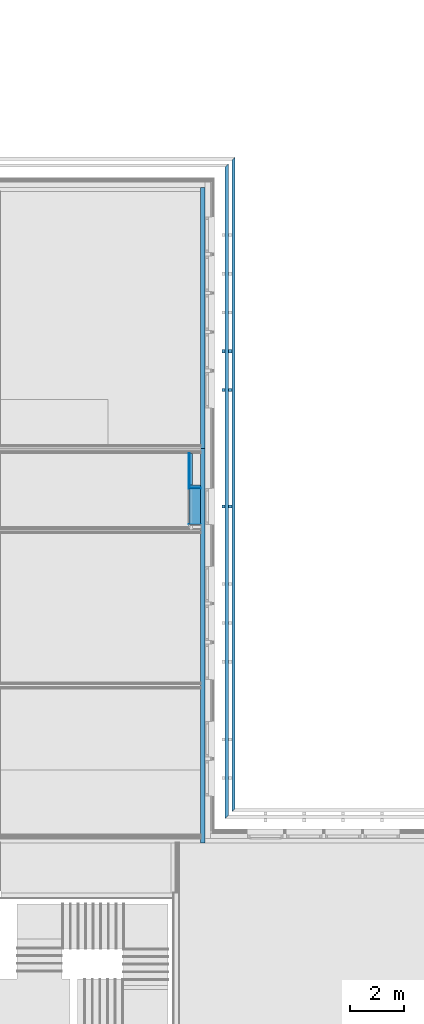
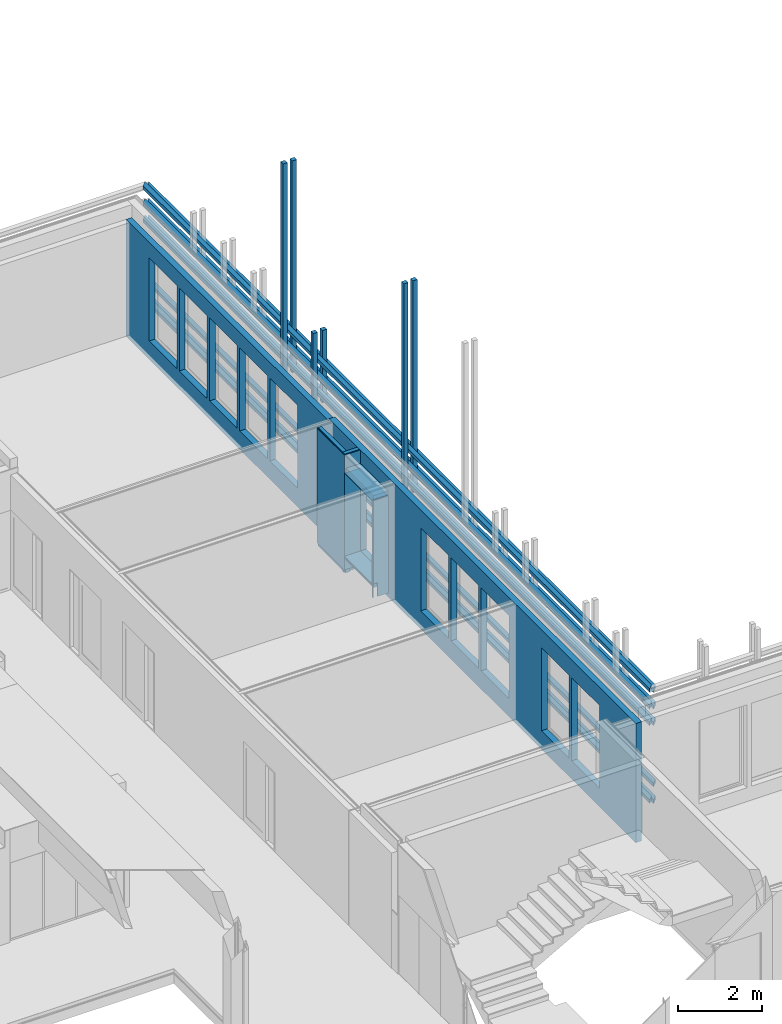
# One storey, part 105 of 139: 19 building element parts, 8 discrete accessories, 11 openings, 6 elements without a shape of their own.
"""IFC2X3 building model written with IfcOpenShell, lengths in millimetres."""

from ifc_helpers import new_model, entity, si_unit, converted_unit, derived_unit, money_unit, direction, frame, origin_with_axes, place, context, subcontext, project, spatial, faceted_brep, material, material_list, type_object, element, aggregate, save


model = new_model("IFC2X3")

# Units and contexts
model_context = context("Model", 3, precision=0.01, world=origin_with_axes(), true_north=direction((0.0, 1.0)))
body_context = subcontext(model_context, "Body", "Model", "MODEL_VIEW")
ifc_project = project(units=[si_unit("LENGTHUNIT", "METRE", prefix="MILLI"), si_unit("AREAUNIT", "SQUARE_METRE"), si_unit("VOLUMEUNIT", "CUBIC_METRE"), converted_unit("PLANEANGLEUNIT", "DEGREE", entity("IfcPlaneAngleMeasure", 0.0174532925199), si_unit("PLANEANGLEUNIT", "RADIAN"), dimensions=[0, 0, 0, 0, 0, 0, 0]), money_unit("EUR"), converted_unit("TIMEUNIT", "Year", entity("IfcTimeMeasure", 31556926.0), si_unit("TIMEUNIT", "SECOND"), dimensions=[0, 0, 1, 0, 0, 0, 0]), si_unit("MASSUNIT", "GRAM", prefix="KILO"), si_unit("THERMODYNAMICTEMPERATUREUNIT", "DEGREE_CELSIUS"), si_unit("LUMINOUSINTENSITYUNIT", "LUMEN"), si_unit("ENERGYUNIT", "JOULE", prefix="MEGA"), derived_unit("THERMALCONDUCTANCEUNIT", [(si_unit("POWERUNIT", "WATT"), 1), (si_unit("LENGTHUNIT", "METRE"), -1), (si_unit("THERMODYNAMICTEMPERATUREUNIT", "KELVIN"), -1)]), derived_unit("SPECIFICHEATCAPACITYUNIT", [(si_unit("ENERGYUNIT", "JOULE"), 1), (si_unit("MASSUNIT", "GRAM", prefix="KILO"), -1), (si_unit("THERMODYNAMICTEMPERATUREUNIT", "KELVIN"), -1)]), derived_unit("MASSDENSITYUNIT", [(si_unit("MASSUNIT", "GRAM", prefix="KILO"), 1), (si_unit("VOLUMEUNIT", "CUBIC_METRE"), -1)])], contexts=[model_context])

# Site, building, storey
site_placement = place(None, origin_with_axes())
site = spatial("IfcSite", under=ifc_project, at=site_placement, Name="Kolde pst 67a", CompositionType="ELEMENT")
building_placement = place(site_placement, origin_with_axes())
building = spatial("IfcBuilding", under=site, at=building_placement, Name="Riigigümnaasium", CompositionType="ELEMENT")
storey_placement = place(building_placement, frame((0.0, 0.0, 4600.0), z_axis=(0.0, 0.0, 1.0), x_axis=(1.0, 0.0, 0.0)))
storey = spatial("IfcBuildingStorey", under=building, at=storey_placement, Name="2. korrus", CompositionType="ELEMENT", Elevation=4600.0)

# Discrete accessories
ifc_material_1 = material(Name="_VÄLISVIIMISTLUS - sõrmjätkatud puitprussid 120x115mm, liitekohad vähemärgatavad, Platowood sõrmjätkatud kuusk või samaväärne; eeltöödeldud tuletõkkevõõbaga, tuletundlikkus B-s1, d0, Woodsafe Exterior WFX™ või samaväärne; kinnitused vastavalt EK osale")
ifc_material_list = material_list([ifc_material_1, ifc_material_1])
discrete_accessory_type_1 = type_object("IfcDiscreteAccessoryType", Name="1+paiksekaitse 4 tk nihkes 2 370 x 355")
for number, where, z_axis, x_axis in (
    (1, (60804.99419, 36804.9718852, 2630.0), (0.0, 0.0, 1.0), (1.0, 0.0, 0.0)),
    (2, (60804.99419, 36804.9718852, -100.0), (0.0, 0.0, 1.0), (1.0, 0.0, 0.0)),
    (3, (60804.99419, 36804.9718852, 3110.0), (0.0, 0.0, 1.0), (1.0, 0.0, 0.0)),
    (4, (60804.99419, 36804.9718852, 2150.0), (0.0, 0.0, 1.0), (1.0, 0.0, 0.0)),
):
    element("IfcDiscreteAccessory", number, at=place(storey_placement, frame(where, z_axis=z_axis, x_axis=x_axis)), inside=storey, type_object=discrete_accessory_type_1, material=ifc_material_list, Name="Päikesevarjestus", context=body_context, shape_type="Brep", body=[
        faceted_brep([(375.0, 24375.0282164, 347.001360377), (375.0, 375.0, 347.001360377), (495.0, 495.0, 357.5), (495.0, 24495.0282184, 357.5), (375.0, 24375.0282164, 242.5), (375.0, 375.0, 242.5), (495.0, 495.0, 242.5), (495.0, 24495.0282184, 242.5)], [[[0, 1, 2, 3]], [[4, 5, 1, 0]], [[5, 6, 2, 1]], [[3, 2, 6, 7]], [[4, 0, 3, 7]], [[7, 6, 5, 4]]]),
        faceted_brep([(625.0, 24625.0282205, 107.001360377), (625.0, 625.0, 107.001360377), (745.0, 745.0, 117.5), (745.0, 24745.0282225, 117.5), (625.0, 24625.0282205, 2.5), (625.0, 625.0, 2.5), (745.0, 745.0, 2.5), (745.0, 24745.0282225, 2.5)], [[[0, 1, 2, 3]], [[4, 5, 1, 0]], [[5, 6, 2, 1]], [[3, 2, 6, 7]], [[4, 0, 3, 7]], [[7, 6, 5, 4]]]),
    ])
discrete_accessory_type_2 = type_object("IfcDiscreteAccessoryType", Name="1+paiksekaitse 3 370 x 115")
discrete_accessory_1_placement = place(storey_placement, frame((61771.9937454, 53025.0013897, 2150.0), z_axis=(0.0, 0.0, 1.0), x_axis=(-1.0, 0.0, 0.0)))
element("IfcDiscreteAccessory", 5, at=discrete_accessory_1_placement, inside=storey, type_object=discrete_accessory_type_2, material=ifc_material_list, Name="Päikesevarjestus", context=body_context, shape_type="Brep", body=[
    faceted_brep([(467.0, 117.5, 0.0), (347.0, 117.5, 0.0), (347.0, 117.5, 2090.0), (467.0, 117.5, 2090.0), (467.0, 2.5, 0.0), (347.0, 2.5, 0.0), (347.0, 2.5, 2090.0), (467.0, 2.5, 2090.0)], [[[0, 1, 2, 3]], [[0, 4, 5, 1]], [[1, 5, 6, 2]], [[3, 2, 6, 7]], [[4, 0, 3, 7]], [[5, 4, 7, 6]]]),
    faceted_brep([(717.0, 117.5, 0.0), (597.0, 117.5, 0.0), (597.0, 117.5, 2090.0), (717.0, 117.5, 2090.0), (717.0, 2.5, 0.0), (597.0, 2.5, 0.0), (597.0, 2.5, 2090.0), (717.0, 2.5, 2090.0)], [[[0, 1, 2, 3]], [[0, 4, 5, 1]], [[1, 5, 6, 2]], [[3, 2, 6, 7]], [[4, 0, 3, 7]], [[5, 4, 7, 6]]]),
])
for number, where, z_axis, x_axis in (
    (6, (61771.9937454, 54455.0013897, 2150.0), (0.0, 0.0, 1.0), (-1.0, 0.0, 0.0)),
    (7, (61771.9937454, 48735.0013897, 2150.0), (0.0, 0.0, 1.0), (-1.0, 0.0, 0.0)),
):
    element("IfcDiscreteAccessory", number, at=place(storey_placement, frame(where, z_axis=z_axis, x_axis=x_axis)), inside=storey, type_object=discrete_accessory_type_2, material=ifc_material_list, Name="Päikesevarjestus", context=body_context, shape_type="Brep", body=[
        faceted_brep([(467.0, 117.5, 0.0), (347.0, 117.5, 0.0), (347.0, 117.5, 6130.0), (467.0, 117.5, 6130.0), (467.0, 2.5, 0.0), (347.0, 2.5, 0.0), (347.0, 2.5, 6130.0), (467.0, 2.5, 6130.0)], [[[0, 1, 2, 3]], [[0, 4, 5, 1]], [[1, 5, 6, 2]], [[3, 2, 6, 7]], [[4, 0, 3, 7]], [[5, 4, 7, 6]]]),
        faceted_brep([(717.0, 117.5, 0.0), (597.0, 117.5, 0.0), (597.0, 117.5, 6130.0), (717.0, 117.5, 6130.0), (717.0, 2.5, 0.0), (597.0, 2.5, 0.0), (597.0, 2.5, 6130.0), (717.0, 2.5, 6130.0)], [[[0, 1, 2, 3]], [[0, 4, 5, 1]], [[1, 5, 6, 2]], [[3, 2, 6, 7]], [[4, 0, 3, 7]], [[5, 4, 7, 6]]]),
    ])
discrete_accessory_type_3 = type_object("IfcDiscreteAccessoryType", Name="1+paiksekaitse 4 tk nihkes 1 120 x 115")
discrete_accessory_2_placement = place(storey_placement, frame((60804.99419, 36804.9718852, 380.0), z_axis=(0.0, 0.0, 1.0), x_axis=(1.0, 0.0, 0.0)))
element("IfcDiscreteAccessory", 8, at=discrete_accessory_2_placement, inside=storey, type_object=discrete_accessory_type_3, material=ifc_material_1, Name="Päikesevarjestus", context=body_context, shape_type="Brep", body=[
    faceted_brep([(745.0, 24745.0282225, 117.5), (625.0, 24625.0282205, 107.001360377), (625.0, 625.0, 107.001360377), (745.0, 745.0, 117.5), (745.0, 24745.0282225, 2.5), (625.0, 24625.0282205, 2.5), (625.0, 625.0, 2.5), (745.0, 745.0, 2.5)], [[[0, 1, 2, 3]], [[4, 5, 1, 0]], [[1, 5, 6, 2]], [[2, 6, 7, 3]], [[4, 0, 3, 7]], [[5, 4, 7, 6]]]),
])

# Wall, openings, building element part
wall_type_1 = type_object("IfcWallType", Name="VS-CLT-16/1_soojust 200+laudis 472", PredefinedType="NOTDEFINED")
wall_1_placement = place(storey_placement, frame((60439.9941222, 36439.9996998, -130.0), z_axis=(0.0, 0.0, 1.0), x_axis=(0.0, 1.0, 0.0)))
wall_1 = element("IfcWall", 9, at=wall_1_placement, inside=storey, type_object=wall_type_1, Name="Välissein")
opening_1_placement = place(wall_1_placement, frame((2225.0001827, 0.0, 530.0), z_axis=(0.0, 0.0, 1.0), x_axis=(1.0, 0.0, 0.0)))
element("IfcOpeningElement", 10, at=opening_1_placement, cuts=wall_1, Name="Välisaken", context=body_context, shape_type="Brep", body=[
    faceted_brep([(-655.0, -122.0, 0.0), (-655.0, -122.0, 2400.0), (-655.0, 632.0, 2400.0), (-655.0, 632.0, 0.0), (655.0, -122.0, 0.0), (655.0, -122.0, 2400.0), (655.0, 632.0, 2400.0), (655.0, 632.0, 0.0)], [[[0, 1, 2, 3]], [[0, 4, 5, 1]], [[1, 5, 6, 2]], [[3, 2, 6, 7]], [[4, 0, 3, 7]], [[5, 4, 7, 6]]]),
    faceted_brep([(-655.0, -122.0, 2400.0), (-655.0, -122.0, 0.0), (-655.0, -784.0, 0.0), (-655.0, -784.0, 2400.0), (655.0, -122.0, 2400.0), (655.0, -122.0, 0.0), (655.0, -784.0, 0.0), (655.0, -784.0, 2400.0)], [[[0, 1, 2, 3]], [[0, 4, 5, 1]], [[1, 5, 6, 2]], [[3, 2, 6, 7]], [[4, 0, 3, 7]], [[5, 4, 7, 6]]]),
])
opening_2_placement = place(wall_1_placement, frame((6515.0001827, 0.0, 530.0), z_axis=(0.0, 0.0, 1.0), x_axis=(1.0, 0.0, 0.0)))
element("IfcOpeningElement", 11, at=opening_2_placement, cuts=wall_1, Name="Välisaken", context=body_context, shape_type="Brep", body=[
    faceted_brep([(-655.0, -122.0, 0.0), (-655.0, -122.0, 2400.0), (-655.0, 632.0, 2400.0), (-655.0, 632.0, 0.0), (655.0, -122.0, 0.0), (655.0, -122.0, 2400.0), (655.0, 632.0, 2400.0), (655.0, 632.0, 0.0)], [[[0, 1, 2, 3]], [[0, 4, 5, 1]], [[1, 5, 6, 2]], [[3, 2, 6, 7]], [[4, 0, 3, 7]], [[5, 4, 7, 6]]]),
    faceted_brep([(-655.0, -122.0, 2400.0), (-655.0, -122.0, 0.0), (-655.0, -784.0, 0.0), (-655.0, -784.0, 2400.0), (655.0, -122.0, 2400.0), (655.0, -122.0, 0.0), (655.0, -784.0, 0.0), (655.0, -784.0, 2400.0)], [[[0, 1, 2, 3]], [[0, 4, 5, 1]], [[1, 5, 6, 2]], [[3, 2, 6, 7]], [[4, 0, 3, 7]], [[5, 4, 7, 6]]]),
])
opening_3_placement = place(wall_1_placement, frame((12235.0001827, 0.0, 530.0), z_axis=(0.0, 0.0, 1.0), x_axis=(1.0, 0.0, 0.0)))
element("IfcOpeningElement", 12, at=opening_3_placement, cuts=wall_1, Name="Välisaken", context=body_context, shape_type="Brep", body=[
    faceted_brep([(-655.0, -122.0, 0.0), (-655.0, -122.0, 2400.0), (-655.0, 632.0, 2400.0), (-655.0, 632.0, 0.0), (655.0, -122.0, 0.0), (655.0, -122.0, 2400.0), (655.0, 632.0, 2400.0), (655.0, 632.0, 0.0)], [[[0, 1, 2, 3]], [[0, 4, 5, 1]], [[1, 5, 6, 2]], [[3, 2, 6, 7]], [[4, 0, 3, 7]], [[5, 4, 7, 6]]]),
    faceted_brep([(-655.0, -122.0, 2400.0), (-655.0, -122.0, 0.0), (-655.0, -784.0, 0.0), (-655.0, -784.0, 2400.0), (655.0, -122.0, 2400.0), (655.0, -122.0, 0.0), (655.0, -784.0, 0.0), (655.0, -784.0, 2400.0)], [[[0, 1, 2, 3]], [[0, 4, 5, 1]], [[1, 5, 6, 2]], [[3, 2, 6, 7]], [[4, 0, 3, 7]], [[5, 4, 7, 6]]]),
])
opening_4_placement = place(wall_1_placement, frame((16525.0005595, 0.0, 530.0), z_axis=(0.0, 0.0, 1.0), x_axis=(1.0, 0.0, 0.0)))
element("IfcOpeningElement", 13, at=opening_4_placement, cuts=wall_1, Name="Välisaken", context=body_context, shape_type="Brep", body=[
    faceted_brep([(-655.0, -122.0, 0.0), (-655.0, -122.0, 2400.0), (-655.0, 632.0, 2400.0), (-655.0, 632.0, 0.0), (655.0, -122.0, 0.0), (655.0, -122.0, 2400.0), (655.0, 632.0, 2400.0), (655.0, 632.0, 0.0)], [[[0, 1, 2, 3]], [[0, 4, 5, 1]], [[1, 5, 6, 2]], [[3, 2, 6, 7]], [[4, 0, 3, 7]], [[5, 4, 7, 6]]]),
    faceted_brep([(-655.0, -122.0, 2400.0), (-655.0, -122.0, 0.0), (-655.0, -784.0, 0.0), (-655.0, -784.0, 2400.0), (655.0, -122.0, 2400.0), (655.0, -122.0, 0.0), (655.0, -784.0, 0.0), (655.0, -784.0, 2400.0)], [[[0, 1, 2, 3]], [[0, 4, 5, 1]], [[1, 5, 6, 2]], [[3, 2, 6, 7]], [[4, 0, 3, 7]], [[5, 4, 7, 6]]]),
])
opening_5_placement = place(wall_1_placement, frame((22245.0003712, 0.0, 530.0), z_axis=(0.0, 0.0, 1.0), x_axis=(1.0, 0.0, 0.0)))
element("IfcOpeningElement", 14, at=opening_5_placement, cuts=wall_1, Name="Välisaken", context=body_context, shape_type="Brep", body=[
    faceted_brep([(655.0, 632.0, 0.0), (655.0, 632.0, 2400.0), (655.0, -122.0, 2400.0), (655.0, -122.0, 0.0), (-655.0, 632.0, 0.0), (-655.0, 632.0, 2400.0), (-655.0, -122.0, 2400.0), (-655.0, -122.0, 0.0)], [[[0, 1, 2, 3]], [[0, 4, 5, 1]], [[1, 5, 6, 2]], [[3, 2, 6, 7]], [[4, 0, 3, 7]], [[5, 4, 7, 6]]]),
    faceted_brep([(655.0, -784.0, 2400.0), (655.0, -784.0, 0.0), (655.0, -122.0, 0.0), (655.0, -122.0, 2400.0), (-655.0, -784.0, 2400.0), (-655.0, -784.0, 0.0), (-655.0, -122.0, 0.0), (-655.0, -122.0, 2400.0)], [[[0, 1, 2, 3]], [[0, 4, 5, 1]], [[1, 5, 6, 2]], [[3, 2, 6, 7]], [[4, 0, 3, 7]], [[5, 4, 7, 6]]]),
])
opening_6_placement = place(wall_1_placement, frame((3655.0001827, 0.0, 530.0), z_axis=(0.0, 0.0, 1.0), x_axis=(1.0, 0.0, 0.0)))
element("IfcOpeningElement", 15, at=opening_6_placement, cuts=wall_1, Name="Välisaken", context=body_context, shape_type="Brep", body=[
    faceted_brep([(655.0, 632.0, 0.0), (655.0, 632.0, 2400.0), (655.0, -122.0, 2400.0), (655.0, -122.0, 0.0), (-655.0, 632.0, 0.0), (-655.0, 632.0, 2400.0), (-655.0, -122.0, 2400.0), (-655.0, -122.0, 0.0)], [[[0, 1, 2, 3]], [[0, 4, 5, 1]], [[1, 5, 6, 2]], [[3, 2, 6, 7]], [[4, 0, 3, 7]], [[5, 4, 7, 6]]]),
    faceted_brep([(655.0, -784.0, 2400.0), (655.0, -784.0, 0.0), (655.0, -122.0, 0.0), (655.0, -122.0, 2400.0), (-655.0, -784.0, 2400.0), (-655.0, -784.0, 0.0), (-655.0, -122.0, 0.0), (-655.0, -122.0, 2400.0)], [[[0, 1, 2, 3]], [[0, 4, 5, 1]], [[1, 5, 6, 2]], [[3, 2, 6, 7]], [[4, 0, 3, 7]], [[5, 4, 7, 6]]]),
])
opening_7_placement = place(wall_1_placement, frame((7945.0003711, 0.0, 530.0), z_axis=(0.0, 0.0, 1.0), x_axis=(1.0, 0.0, 0.0)))
element("IfcOpeningElement", 16, at=opening_7_placement, cuts=wall_1, Name="Välisaken", context=body_context, shape_type="Brep", body=[
    faceted_brep([(655.0, 632.0, 0.0), (655.0, 632.0, 2400.0), (655.0, -122.0, 2400.0), (655.0, -122.0, 0.0), (-655.0, 632.0, 0.0), (-655.0, 632.0, 2400.0), (-655.0, -122.0, 2400.0), (-655.0, -122.0, 0.0)], [[[0, 1, 2, 3]], [[0, 4, 5, 1]], [[1, 5, 6, 2]], [[3, 2, 6, 7]], [[4, 0, 3, 7]], [[5, 4, 7, 6]]]),
    faceted_brep([(655.0, -784.0, 2400.0), (655.0, -784.0, 0.0), (655.0, -122.0, 0.0), (655.0, -122.0, 2400.0), (-655.0, -784.0, 2400.0), (-655.0, -784.0, 0.0), (-655.0, -122.0, 0.0), (-655.0, -122.0, 2400.0)], [[[0, 1, 2, 3]], [[0, 4, 5, 1]], [[1, 5, 6, 2]], [[3, 2, 6, 7]], [[4, 0, 3, 7]], [[5, 4, 7, 6]]]),
])
opening_8_placement = place(wall_1_placement, frame((9375.0001827, 0.0, 530.0), z_axis=(0.0, 0.0, 1.0), x_axis=(1.0, 0.0, 0.0)))
element("IfcOpeningElement", 17, at=opening_8_placement, cuts=wall_1, Name="Välisaken", context=body_context, shape_type="Brep", body=[
    faceted_brep([(655.0, 632.0, 0.0), (655.0, 632.0, 2400.0), (655.0, -122.0, 2400.0), (655.0, -122.0, 0.0), (-655.0, 632.0, 0.0), (-655.0, 632.0, 2400.0), (-655.0, -122.0, 2400.0), (-655.0, -122.0, 0.0)], [[[0, 1, 2, 3]], [[0, 4, 5, 1]], [[1, 5, 6, 2]], [[3, 2, 6, 7]], [[4, 0, 3, 7]], [[5, 4, 7, 6]]]),
    faceted_brep([(655.0, -784.0, 2400.0), (655.0, -784.0, 0.0), (655.0, -122.0, 0.0), (655.0, -122.0, 2400.0), (-655.0, -784.0, 2400.0), (-655.0, -784.0, 0.0), (-655.0, -122.0, 0.0), (-655.0, -122.0, 2400.0)], [[[0, 1, 2, 3]], [[0, 4, 5, 1]], [[1, 5, 6, 2]], [[3, 2, 6, 7]], [[4, 0, 3, 7]], [[5, 4, 7, 6]]]),
])
opening_9_placement = place(wall_1_placement, frame((17955.0001827, 0.0, 530.0), z_axis=(0.0, 0.0, 1.0), x_axis=(1.0, 0.0, 0.0)))
element("IfcOpeningElement", 18, at=opening_9_placement, cuts=wall_1, Name="Välisaken", context=body_context, shape_type="Brep", body=[
    faceted_brep([(655.0, 632.0, 0.0), (655.0, 632.0, 2400.0), (655.0, -122.0, 2400.0), (655.0, -122.0, 0.0), (-655.0, 632.0, 0.0), (-655.0, 632.0, 2400.0), (-655.0, -122.0, 2400.0), (-655.0, -122.0, 0.0)], [[[0, 1, 2, 3]], [[0, 4, 5, 1]], [[1, 5, 6, 2]], [[3, 2, 6, 7]], [[4, 0, 3, 7]], [[5, 4, 7, 6]]]),
    faceted_brep([(655.0, -784.0, 2400.0), (655.0, -784.0, 0.0), (655.0, -122.0, 0.0), (655.0, -122.0, 2400.0), (-655.0, -784.0, 2400.0), (-655.0, -784.0, 0.0), (-655.0, -122.0, 0.0), (-655.0, -122.0, 2400.0)], [[[0, 1, 2, 3]], [[0, 4, 5, 1]], [[1, 5, 6, 2]], [[3, 2, 6, 7]], [[4, 0, 3, 7]], [[5, 4, 7, 6]]]),
])
opening_10_placement = place(wall_1_placement, frame((20815.0001828, 0.0, 530.0), z_axis=(0.0, 0.0, 1.0), x_axis=(1.0, 0.0, 0.0)))
element("IfcOpeningElement", 19, at=opening_10_placement, cuts=wall_1, Name="Välisaken", context=body_context, shape_type="Brep", body=[
    faceted_brep([(655.0, 632.0, 0.0), (655.0, 632.0, 2400.0), (655.0, -122.0, 2400.0), (655.0, -122.0, 0.0), (-655.0, 632.0, 0.0), (-655.0, 632.0, 2400.0), (-655.0, -122.0, 2400.0), (-655.0, -122.0, 0.0)], [[[0, 1, 2, 3]], [[0, 4, 5, 1]], [[1, 5, 6, 2]], [[3, 2, 6, 7]], [[4, 0, 3, 7]], [[5, 4, 7, 6]]]),
    faceted_brep([(655.0, -784.0, 2400.0), (655.0, -784.0, 0.0), (655.0, -122.0, 0.0), (655.0, -122.0, 2400.0), (-655.0, -784.0, 2400.0), (-655.0, -784.0, 0.0), (-655.0, -122.0, 0.0), (-655.0, -122.0, 2400.0)], [[[0, 1, 2, 3]], [[0, 4, 5, 1]], [[1, 5, 6, 2]], [[3, 2, 6, 7]], [[4, 0, 3, 7]], [[5, 4, 7, 6]]]),
])
opening_11_placement = place(wall_1_placement, frame((19385.0001829, 0.0, 530.0), z_axis=(0.0, 0.0, 1.0), x_axis=(1.0, 0.0, 0.0)))
element("IfcOpeningElement", 20, at=opening_11_placement, cuts=wall_1, Name="Välisaken", context=body_context, shape_type="Brep", body=[
    faceted_brep([(655.0, 632.0, 0.0), (655.0, 632.0, 2400.0), (655.0, -122.0, 2400.0), (655.0, -122.0, 0.0), (-655.0, 632.0, 0.0), (-655.0, 632.0, 2400.0), (-655.0, -122.0, 2400.0), (-655.0, -122.0, 0.0)], [[[0, 1, 2, 3]], [[0, 4, 5, 1]], [[1, 5, 6, 2]], [[3, 2, 6, 7]], [[4, 0, 3, 7]], [[5, 4, 7, 6]]]),
    faceted_brep([(655.0, -784.0, 2400.0), (655.0, -784.0, 0.0), (655.0, -122.0, 0.0), (655.0, -122.0, 2400.0), (-655.0, -784.0, 2400.0), (-655.0, -784.0, 0.0), (-655.0, -122.0, 0.0), (-655.0, -122.0, 2400.0)], [[[0, 1, 2, 3]], [[0, 4, 5, 1]], [[1, 5, 6, 2]], [[3, 2, 6, 7]], [[4, 0, 3, 7]], [[5, 4, 7, 6]]]),
])
ifc_material_2 = material(Name="_KANDETARIND - CLT ristkihtliimpuit vastavalt EK osale, CLT paigaldusvuugid teibitakse ROTHOBLAAS teibiga")
building_element_part_1_placement = place(wall_1_placement, origin_with_axes())
building_element_part_1 = element("IfcBuildingElementPart", 21, at=building_element_part_1_placement, material=ifc_material_2, Name="_KANDETARIND - CLT ristkihtliimpuit vastavalt EK osale, CLT paigaldusvuugid teibitakse ROTHOBLAAS teibiga", context=body_context, shape_type="Brep", body=[
    faceted_brep([(24000.0004846, 160.0, 3380.0), (24000.0004846, 160.0, 0.0), (-160.0, 160.0, 0.0), (-160.0, 160.0, 3450.0), (14375.0006789, 160.0, 3450.0), (14375.0006789, 160.0, 3380.0), (2880.0001827, 160.0, 2930.0), (1570.0001827, 160.0, 2930.0), (1570.0001827, 160.0, 530.0), (2880.0001827, 160.0, 530.0), (7170.0001827, 160.0, 530.0), (7170.0001827, 160.0, 2930.0), (5860.0001827, 160.0, 2930.0), (5860.0001827, 160.0, 530.0), (11580.0001827, 160.0, 530.0), (12890.0001827, 160.0, 530.0), (12890.0001827, 160.0, 2930.0), (11580.0001827, 160.0, 2930.0), (15870.0005595, 160.0, 2930.0), (15870.0005595, 160.0, 530.0), (17180.0005595, 160.0, 530.0), (17180.0005595, 160.0, 2930.0), (22900.0003712, 160.0, 2930.0), (21590.0003712, 160.0, 2930.0), (21590.0003712, 160.0, 530.0), (22900.0003712, 160.0, 530.0), (4310.0001827, 160.0, 530.0), (4310.0001827, 160.0, 2930.0), (3000.0001827, 160.0, 2930.0), (3000.0001827, 160.0, 530.0), (7290.0003711, 160.0, 530.0), (8600.0003711, 160.0, 530.0), (8600.0003711, 160.0, 2930.0), (7290.0003711, 160.0, 2930.0), (8720.0001827, 160.0, 2930.0), (8720.0001827, 160.0, 530.0), (10030.0001827, 160.0, 530.0), (10030.0001827, 160.0, 2930.0), (18610.0001827, 160.0, 2930.0), (17300.0001827, 160.0, 2930.0), (17300.0001827, 160.0, 530.0), (18610.0001827, 160.0, 530.0), (21470.0001828, 160.0, 530.0), (21470.0001828, 160.0, 2930.0), (20160.0001828, 160.0, 2930.0), (20160.0001828, 160.0, 530.0), (18730.0001829, 160.0, 530.0), (20040.0001829, 160.0, 530.0), (20040.0001829, 160.0, 2930.0), (18730.0001829, 160.0, 2930.0), (24000.0004846, 0.0, 3380.0), (24000.0004846, 0.0, 0.0), (-160.0, 0.0, 0.0), (-160.0, 0.0, 3450.0), (0.0, 0.0, 3450.0), (14375.0006789, 0.0, 3450.0), (14375.0006789, 0.0, 3380.0), (2880.0001827, 0.0, 2930.0), (1570.0001827, 0.0, 2930.0), (1570.0001827, 0.0, 530.0), (2880.0001827, 0.0, 530.0), (7170.0001827, 0.0, 2930.0), (7170.0001827, 0.0, 530.0), (5860.0001827, 0.0, 2930.0), (5860.0001827, 0.0, 530.0), (11580.0001827, 0.0, 530.0), (12890.0001827, 0.0, 530.0), (12890.0001827, 0.0, 2930.0), (11580.0001827, 0.0, 2930.0), (15870.0005595, 0.0, 2930.0), (15870.0005595, 0.0, 530.0), (17180.0005595, 0.0, 530.0), (17180.0005595, 0.0, 2930.0), (22900.0003712, 0.0, 2930.0), (21590.0003712, 0.0, 2930.0), (21590.0003712, 0.0, 530.0), (22900.0003712, 0.0, 530.0), (4310.0001827, 0.0, 2930.0), (4310.0001827, 0.0, 530.0), (3000.0001827, 0.0, 2930.0), (3000.0001827, 0.0, 530.0), (7290.0003711, 0.0, 530.0), (8600.0003711, 0.0, 530.0), (8600.0003711, 0.0, 2930.0), (7290.0003711, 0.0, 2930.0), (8720.0001827, 0.0, 2930.0), (8720.0001827, 0.0, 530.0), (10030.0001827, 0.0, 530.0), (10030.0001827, 0.0, 2930.0), (18610.0001827, 0.0, 2930.0), (17300.0001827, 0.0, 2930.0), (17300.0001827, 0.0, 530.0), (18610.0001827, 0.0, 530.0), (21470.0001828, 0.0, 2930.0), (21470.0001828, 0.0, 530.0), (20160.0001828, 0.0, 2930.0), (20160.0001828, 0.0, 530.0), (18730.0001829, 0.0, 530.0), (20040.0001829, 0.0, 530.0), (20040.0001829, 0.0, 2930.0), (18730.0001829, 0.0, 2930.0)], [[[0, 1, 2, 3, 4, 5], [6, 7, 8, 9], [10, 11, 12, 13], [14, 15, 16, 17], [18, 19, 20, 21], [22, 23, 24, 25], [26, 27, 28, 29], [30, 31, 32, 33], [34, 35, 36, 37], [38, 39, 40, 41], [42, 43, 44, 45], [46, 47, 48, 49]], [[1, 0, 50, 51]], [[2, 1, 51, 52]], [[52, 53, 3, 2]], [[4, 3, 53, 54, 55]], [[5, 4, 55, 56]], [[50, 0, 5, 56]], [[7, 6, 57, 58]], [[8, 7, 58, 59]], [[9, 8, 59, 60]], [[6, 9, 60, 57]], [[61, 11, 10, 62]], [[63, 12, 11, 61]], [[64, 13, 12, 63]], [[62, 10, 13, 64]], [[65, 66, 15, 14]], [[66, 67, 16, 15]], [[67, 68, 17, 16]], [[68, 65, 14, 17]], [[18, 69, 70, 19]], [[19, 70, 71, 20]], [[20, 71, 72, 21]], [[21, 72, 69, 18]], [[23, 22, 73, 74]], [[24, 23, 74, 75]], [[25, 24, 75, 76]], [[22, 25, 76, 73]], [[77, 27, 26, 78]], [[79, 28, 27, 77]], [[80, 29, 28, 79]], [[78, 26, 29, 80]], [[81, 82, 31, 30]], [[82, 83, 32, 31]], [[83, 84, 33, 32]], [[84, 81, 30, 33]], [[34, 85, 86, 35]], [[35, 86, 87, 36]], [[36, 87, 88, 37]], [[37, 88, 85, 34]], [[39, 38, 89, 90]], [[40, 39, 90, 91]], [[41, 40, 91, 92]], [[38, 41, 92, 89]], [[93, 43, 42, 94]], [[95, 44, 43, 93]], [[96, 45, 44, 95]], [[94, 42, 45, 96]], [[97, 98, 47, 46]], [[98, 99, 48, 47]], [[99, 100, 49, 48]], [[100, 97, 46, 49]], [[52, 51, 50, 56, 55, 54, 53], [57, 60, 59, 58], [63, 61, 62, 64], [65, 68, 67, 66], [71, 70, 69, 72], [73, 76, 75, 74], [79, 77, 78, 80], [81, 84, 83, 82], [87, 86, 85, 88], [89, 92, 91, 90], [95, 93, 94, 96], [97, 100, 99, 98]]]),
])
aggregate(wall_1, [building_element_part_1])

# Wall, building element parts
wall_type_2 = type_object("IfcWallType", Name="SS-MK-10/6_šahti sein+krohv 40 dB 135", PredefinedType="NOTDEFINED")
wall_2_placement = place(storey_placement, frame((60439.9941222, 49329.9998825, -150.0), z_axis=(0.0, 0.0, 1.0), x_axis=(-1.0, 0.0, 0.0)))
wall_2 = element("IfcWall", 22, at=wall_2_placement, inside=storey, type_object=wall_type_2, Name="Varisein")
ifc_material_3 = material(Name="_VIIMISTLUSKIHT - viimistlus vastavalt SA osale")
building_element_part_2_placement = place(wall_2_placement, origin_with_axes())
building_element_part_2 = element("IfcBuildingElementPart", 23, at=building_element_part_2_placement, material=ifc_material_3, Name="_VIIMISTLUSKIHT - viimistlus vastavalt SA osale", context=body_context, shape_type="Brep", body=[
    faceted_brep([(590.0, -10.0, 3470.0), (160.0, -10.0, 3470.0), (160.0, -10.0, 150.0), (590.0, -10.0, 150.0), (160.0, 0.0, 3470.0), (590.0, 0.0, 3470.0), (160.0, 0.0, 150.0), (590.0, 0.0, 150.0)], [[[0, 1, 2, 3]], [[4, 1, 0, 5]], [[1, 4, 6, 2]], [[3, 2, 6, 7]], [[5, 0, 3, 7]], [[4, 5, 7, 6]]]),
])
ifc_material_4 = material(Name="_PLAATMATERJAL - kipsplaat veekindel")
building_element_part_3_placement = place(wall_2_placement, origin_with_axes())
building_element_part_3 = element("IfcBuildingElementPart", 24, at=building_element_part_3_placement, material=ifc_material_4, Name="_PLAATMATERJAL - kipsplaat veekindel", context=body_context, shape_type="Brep", body=[
    faceted_brep([(590.0, -22.5, 3470.0), (160.0, -22.5, 3470.0), (160.0, -22.5, 147.0), (590.0, -22.5, 147.0), (160.0, -10.0, 3470.0), (590.0, -10.0, 3470.0), (160.0, -10.0, 147.0), (590.0, -10.0, 147.0)], [[[0, 1, 2, 3]], [[4, 1, 0, 5]], [[1, 4, 6, 2]], [[3, 2, 6, 7]], [[5, 0, 3, 7]], [[4, 5, 7, 6]]]),
])
building_element_part_4_placement = place(wall_2_placement, origin_with_axes())
building_element_part_4 = element("IfcBuildingElementPart", 25, at=building_element_part_4_placement, material=ifc_material_4, Name="_PLAATMATERJAL - kipsplaat veekindel", context=body_context, shape_type="Brep", body=[
    faceted_brep([(590.0, -35.0, 3470.0), (160.0, -35.0, 3470.0), (160.0, -35.0, 147.0), (590.0, -35.0, 147.0), (160.0, -22.5, 3470.0), (590.0, -22.5, 3470.0), (160.0, -22.5, 147.0), (590.0, -22.5, 147.0)], [[[0, 1, 2, 3]], [[4, 1, 0, 5]], [[1, 4, 6, 2]], [[3, 2, 6, 7]], [[5, 0, 3, 7]], [[4, 5, 7, 6]]]),
])
ifc_material_5 = material(Name="_KARKASS - metallkarkass CW 100/50/06 ja UW 100/40/06, samm 600, vahel mineraalvill, helineeldetegur αw = 1.0,  ISOVER ACOUSTIC 100mm või samaväärne")
building_element_part_5_placement = place(wall_2_placement, origin_with_axes())
building_element_part_5 = element("IfcBuildingElementPart", 26, at=building_element_part_5_placement, material=ifc_material_5, Name="_KARKASS - metallkarkass CW 100/50/06 ja UW 100/40/06, samm 600, vahel mineraalvill, helineeldetegur αw = 1.0,  ISOVER ACOUSTIC 100mm või samaväärne", context=body_context, shape_type="Brep", body=[
    faceted_brep([(590.0, -135.0, 3470.0), (160.0, -135.0, 3470.0), (160.0, -135.0, 50.0), (590.0, -135.0, 50.0), (160.0, -35.0, 3470.0), (590.0, -35.0, 3470.0), (160.0, -35.0, 50.0), (590.0, -35.0, 50.0)], [[[0, 1, 2, 3]], [[4, 1, 0, 5]], [[1, 4, 6, 2]], [[3, 2, 6, 7]], [[5, 0, 3, 7]], [[4, 5, 7, 6]]]),
])
aggregate(wall_2, [building_element_part_2, building_element_part_3, building_element_part_4, building_element_part_5])

wall_3_placement = place(storey_placement, frame((59839.9941222, 49329.9998825, -150.0), z_axis=(0.0, 0.0, 1.0), x_axis=(0.0, 1.0, 0.0)))
wall_3 = element("IfcWall", 27, at=wall_3_placement, inside=storey, type_object=wall_type_2, Name="Varisein")
building_element_part_6_placement = place(wall_3_placement, origin_with_axes())
building_element_part_6 = element("IfcBuildingElementPart", 28, at=building_element_part_6_placement, material=ifc_material_3, Name="_VIIMISTLUSKIHT - viimistlus vastavalt SA osale", context=body_context, shape_type="Brep", body=[
    faceted_brep([(1305.0004962, 0.0, 3470.0), (1305.0004962, -10.0, 3470.0), (1305.0004962, -10.0, 150.0), (1305.0004962, 0.0, 150.0), (0.0, -10.0, 3470.0), (0.0, 0.0, 3470.0), (0.0, -10.0, 150.0), (0.0, 0.0, 150.0)], [[[0, 1, 2, 3]], [[4, 1, 0, 5]], [[1, 4, 6, 2]], [[3, 2, 6, 7]], [[5, 0, 3, 7]], [[4, 5, 7, 6]]]),
])
building_element_part_7_placement = place(wall_3_placement, origin_with_axes())
building_element_part_7 = element("IfcBuildingElementPart", 29, at=building_element_part_7_placement, material=ifc_material_4, Name="_PLAATMATERJAL - kipsplaat veekindel", context=body_context, shape_type="Brep", body=[
    faceted_brep([(1305.0004962, -10.0, 3470.0), (1305.0004962, -22.5, 3470.0), (1305.0004962, -22.5, 147.0), (1305.0004962, -10.0, 147.0), (0.0, -22.5, 3470.0), (0.0, -10.0, 3470.0), (0.0, -22.5, 147.0), (0.0, -10.0, 147.0)], [[[0, 1, 2, 3]], [[4, 1, 0, 5]], [[1, 4, 6, 2]], [[3, 2, 6, 7]], [[5, 0, 3, 7]], [[4, 5, 7, 6]]]),
])
building_element_part_8_placement = place(wall_3_placement, origin_with_axes())
building_element_part_8 = element("IfcBuildingElementPart", 30, at=building_element_part_8_placement, material=ifc_material_4, Name="_PLAATMATERJAL - kipsplaat veekindel", context=body_context, shape_type="Brep", body=[
    faceted_brep([(1305.0004962, -22.5, 3470.0), (1305.0004962, -35.0, 3470.0), (1305.0004962, -35.0, 147.0), (1305.0004962, -22.5, 147.0), (0.0, -35.0, 3470.0), (0.0, -22.5, 3470.0), (0.0, -35.0, 147.0), (0.0, -22.5, 147.0)], [[[0, 1, 2, 3]], [[4, 1, 0, 5]], [[1, 4, 6, 2]], [[3, 2, 6, 7]], [[5, 0, 3, 7]], [[4, 5, 7, 6]]]),
])
building_element_part_9_placement = place(wall_3_placement, origin_with_axes())
building_element_part_9 = element("IfcBuildingElementPart", 31, at=building_element_part_9_placement, material=ifc_material_5, Name="_KARKASS - metallkarkass CW 100/50/06 ja UW 100/40/06, samm 600, vahel mineraalvill, helineeldetegur αw = 1.0,  ISOVER ACOUSTIC 100mm või samaväärne", context=body_context, shape_type="Brep", body=[
    faceted_brep([(1305.0004962, -35.0, 3470.0), (1305.0004962, -135.0, 3470.0), (1305.0004962, -135.0, 50.0), (1305.0004962, -35.0, 50.0), (0.0, -135.0, 3470.0), (0.0, -35.0, 3470.0), (0.0, -135.0, 50.0), (0.0, -35.0, 50.0)], [[[0, 1, 2, 3]], [[4, 1, 0, 5]], [[1, 4, 6, 2]], [[3, 2, 6, 7]], [[5, 0, 3, 7]], [[4, 5, 7, 6]]]),
])
aggregate(wall_3, [building_element_part_6, building_element_part_7, building_element_part_8, building_element_part_9])

wall_type_3 = type_object("IfcWallType", Name="SS-MK-10/2_šahti sein+plaat 140", PredefinedType="NOTDEFINED")
wall_4_placement = place(storey_placement, frame((60439.9941222, 48019.9998825, -150.0), z_axis=(0.0, 0.0, 1.0), x_axis=(-1.0, 0.0, 0.0)))
wall_4 = element("IfcWall", 32, at=wall_4_placement, inside=storey, type_object=wall_type_3, Name="Varisein")
building_element_part_10_placement = place(wall_4_placement, origin_with_axes())
building_element_part_10 = element("IfcBuildingElementPart", 33, at=building_element_part_10_placement, material=ifc_material_4, Name="_PLAATMATERJAL - kipsplaat veekindel", context=body_context, shape_type="Brep", body=[
    faceted_brep([(572.5, 27.5, 147.0), (572.5, 15.0, 147.0), (572.5, 15.0, 550.0), (572.5, 27.5, 550.0), (585.0, 15.0, 147.0), (160.0, 15.0, 147.0), (460.0, 15.0, 147.0), (460.0, 15.0, 550.0), (585.0, 15.0, 2950.0), (160.0, 15.0, 2950.0), (460.0, 27.5, 550.0), (560.0, 27.5, 550.0), (572.5, 27.5, 2950.0), (160.0, 27.5, 147.0), (460.0, 27.5, 147.0), (160.0, 27.5, 2950.0)], [[[0, 1, 2, 3]], [[4, 1, 0]], [[5, 6, 7, 2, 1, 4, 8, 9]], [[10, 11, 3, 2, 7]], [[4, 0, 3, 12, 8]], [[6, 5, 13, 14]], [[6, 14, 10, 7]], [[12, 15, 9, 8]], [[13, 5, 9, 15]], [[14, 13, 15, 12, 3, 11, 10]]]),
])
building_element_part_11_placement = place(wall_4_placement, origin_with_axes())
building_element_part_11 = element("IfcBuildingElementPart", 34, at=building_element_part_11_placement, material=ifc_material_3, Name="_VIIMISTLUSKIHT - viimistlus vastavalt SA osale", context=body_context, shape_type="Brep", body=[
    faceted_brep([(585.0, 15.0, 150.0), (585.0, 0.0, 150.0), (585.0, 0.0, 550.0), (585.0, 15.0, 550.0), (600.0, 0.0, 150.0), (160.0, 0.0, 150.0), (460.0, 0.0, 150.0), (460.0, 0.0, 550.0), (600.0, 0.0, 2950.0), (160.0, 0.0, 2950.0), (460.0, 15.0, 550.0), (572.5, 15.0, 550.0), (585.0, 15.0, 2950.0), (160.0, 15.0, 150.0), (460.0, 15.0, 150.0), (160.0, 15.0, 2950.0)], [[[0, 1, 2, 3]], [[4, 1, 0]], [[5, 6, 7, 2, 1, 4, 8, 9]], [[10, 11, 3, 2, 7]], [[4, 0, 3, 12, 8]], [[6, 5, 13, 14]], [[6, 14, 10, 7]], [[12, 15, 9, 8]], [[13, 5, 9, 15]], [[14, 13, 15, 12, 3, 11, 10]]]),
])
aggregate(wall_4, [building_element_part_10, building_element_part_11])

# Slab, building element parts
slab_type_1 = type_object("IfcSlabType", Name="VL-MK-10/2_variseinte hor. osad+vill- tasapind 130", PredefinedType="NOTDEFINED")
slab_1_placement = place(storey_placement, frame((59839.9941222, 48019.9998825, 400.0), z_axis=(0.0, 0.0, 1.0), x_axis=(1.0, 0.0, 0.0)))
slab_1 = element("IfcSlab", 35, at=slab_1_placement, inside=storey, type_object=slab_type_1, Name="VAHELAGI", PredefinedType="NOTDEFINED")
building_element_part_12_placement = place(slab_1_placement, origin_with_axes())
building_element_part_12 = element("IfcBuildingElementPart", 36, at=building_element_part_12_placement, material=ifc_material_3, Name="_VIIMISTLUSKIHT - viimistlus vastavalt SA osale", context=body_context, shape_type="Brep", body=[
    faceted_brep([(440.0, 0.0, -5.0), (440.0, 0.0, 0.0), (0.0, 0.0, 0.0), (0.0, 0.0, -5.0), (440.0, 1310.0, -5.0), (440.0, 1310.0, 0.0), (0.0, 1310.0, 0.0), (0.0, 1310.0, -5.0)], [[[0, 1, 2, 3]], [[4, 5, 1, 0]], [[2, 1, 5, 6]], [[3, 2, 6, 7]], [[3, 7, 4, 0]], [[7, 6, 5, 4]]]),
])
ifc_material_6 = material(Name="_PLAATMATERJAL - kipsplaat vastavalt ruumi nõuetele 12,5mm")
building_element_part_13_placement = place(slab_1_placement, origin_with_axes())
building_element_part_13 = element("IfcBuildingElementPart", 37, at=building_element_part_13_placement, material=ifc_material_6, Name="_PLAATMATERJAL - kipsplaat vastavalt ruumi nõuetele 12,5mm", context=body_context, shape_type="Brep", body=[
    faceted_brep([(440.0, 0.0, -17.5), (440.0, 0.0, -5.0), (0.0, 0.0, -5.0), (0.0, 0.0, -17.5), (440.0, 1310.0, -17.5), (440.0, 1310.0, -5.0), (0.0, 1310.0, -5.0), (0.0, 1310.0, -17.5)], [[[0, 1, 2, 3]], [[4, 5, 1, 0]], [[2, 1, 5, 6]], [[3, 2, 6, 7]], [[3, 7, 4, 0]], [[7, 6, 5, 4]]]),
])
building_element_part_14_placement = place(slab_1_placement, origin_with_axes())
building_element_part_14 = element("IfcBuildingElementPart", 38, at=building_element_part_14_placement, material=ifc_material_6, Name="_PLAATMATERJAL - kipsplaat vastavalt ruumi nõuetele 12,5mm", context=body_context, shape_type="Brep", body=[
    faceted_brep([(440.0, 0.0, -30.0), (440.0, 0.0, -17.5), (0.0, 0.0, -17.5), (0.0, 0.0, -30.0), (440.0, 1310.0, -30.0), (440.0, 1310.0, -17.5), (0.0, 1310.0, -17.5), (0.0, 1310.0, -30.0)], [[[0, 1, 2, 3]], [[4, 5, 1, 0]], [[2, 1, 5, 6]], [[3, 2, 6, 7]], [[3, 7, 4, 0]], [[7, 6, 5, 4]]]),
])
building_element_part_15_placement = place(slab_1_placement, origin_with_axes())
building_element_part_15 = element("IfcBuildingElementPart", 39, at=building_element_part_15_placement, material=ifc_material_5, Name="_KARKASS - metallkarkass CW 100/50/06 ja UW 100/40/06, samm 600, vahel mineraalvill, helineeldetegur αw = 1.0,  ISOVER ACOUSTIC 100mm või samaväärne", context=body_context, shape_type="Brep", body=[
    faceted_brep([(40.0, 1310.0, -130.0), (40.0, 1310.0, -30.0), (440.0, 1310.0, -30.0), (440.0, 1310.0, -130.0), (40.0, 0.0, -30.0), (40.0, 0.0, -130.0), (440.0, 0.0, -30.0), (440.0, 0.0, -130.0)], [[[0, 1, 2, 3]], [[4, 1, 0, 5]], [[1, 4, 6, 2]], [[6, 7, 3, 2]], [[5, 0, 3, 7]], [[4, 5, 7, 6]]]),
])
aggregate(slab_1, [building_element_part_12, building_element_part_13, building_element_part_14, building_element_part_15])

slab_type_2 = type_object("IfcSlabType", Name="VL-MK-10/2_variseinte hor. osad - laeks 130", PredefinedType="NOTDEFINED")
slab_2_placement = place(storey_placement, frame((59839.9941222, 48019.9998825, 2930.0), z_axis=(0.0, 0.0, 1.0), x_axis=(1.0, 0.0, 0.0)))
slab_2 = element("IfcSlab", 40, at=slab_2_placement, inside=storey, type_object=slab_type_2, Name="VAHELAGI", PredefinedType="NOTDEFINED")
building_element_part_16_placement = place(slab_2_placement, origin_with_axes())
building_element_part_16 = element("IfcBuildingElementPart", 41, at=building_element_part_16_placement, material=ifc_material_5, Name="_KARKASS - metallkarkass CW 100/50/06 ja UW 100/40/06, samm 600, vahel mineraalvill, helineeldetegur αw = 1.0,  ISOVER ACOUSTIC 100mm või samaväärne", context=body_context, shape_type="Brep", body=[
    faceted_brep([(40.0, 1310.0, -100.0), (40.0, 1310.0, 0.0), (440.0, 1310.0, 0.0), (440.0, 1310.0, -100.0), (40.0, 0.0, 0.0), (40.0, 0.0, -100.0), (440.0, 0.0, 0.0), (440.0, 0.0, -100.0)], [[[0, 1, 2, 3]], [[4, 1, 0, 5]], [[1, 4, 6, 2]], [[7, 3, 2, 6]], [[5, 0, 3, 7]], [[4, 5, 7, 6]]]),
])
building_element_part_17_placement = place(slab_2_placement, origin_with_axes())
building_element_part_17 = element("IfcBuildingElementPart", 42, at=building_element_part_17_placement, material=ifc_material_6, Name="_PLAATMATERJAL - kipsplaat vastavalt ruumi nõuetele 12,5mm", context=body_context, shape_type="Brep", body=[
    faceted_brep([(440.0, 0.0, -112.5), (440.0, 0.0, -100.0), (0.0, 0.0, -100.0), (0.0, 0.0, -112.5), (440.0, 1310.0, -112.5), (440.0, 1310.0, -100.0), (0.0, 1310.0, -100.0), (0.0, 1310.0, -112.5)], [[[0, 1, 2, 3]], [[4, 5, 1, 0]], [[2, 1, 5, 6]], [[3, 2, 6, 7]], [[3, 7, 4, 0]], [[7, 6, 5, 4]]]),
])
building_element_part_18_placement = place(slab_2_placement, origin_with_axes())
building_element_part_18 = element("IfcBuildingElementPart", 43, at=building_element_part_18_placement, material=ifc_material_6, Name="_PLAATMATERJAL - kipsplaat vastavalt ruumi nõuetele 12,5mm", context=body_context, shape_type="Brep", body=[
    faceted_brep([(440.0, 0.0, -125.0), (440.0, 0.0, -112.5), (0.0, 0.0, -112.5), (0.0, 0.0, -125.0), (440.0, 1310.0, -125.0), (440.0, 1310.0, -112.5), (0.0, 1310.0, -112.5), (0.0, 1310.0, -125.0)], [[[0, 1, 2, 3]], [[4, 5, 1, 0]], [[2, 1, 5, 6]], [[3, 2, 6, 7]], [[3, 7, 4, 0]], [[7, 6, 5, 4]]]),
])
building_element_part_19_placement = place(slab_2_placement, origin_with_axes())
building_element_part_19 = element("IfcBuildingElementPart", 44, at=building_element_part_19_placement, material=ifc_material_3, Name="_VIIMISTLUSKIHT - viimistlus vastavalt SA osale", context=body_context, shape_type="Brep", body=[
    faceted_brep([(0.0, 0.0, -130.0), (440.0, 0.0, -130.0), (440.0, 0.0, -125.0), (0.0, 0.0, -125.0), (0.0, 1310.0, -130.0), (440.0, 1310.0, -130.0), (440.0, 1310.0, -125.0), (0.0, 1310.0, -125.0)], [[[0, 1, 2, 3]], [[0, 4, 5, 1]], [[1, 5, 6, 2]], [[3, 2, 6, 7]], [[4, 0, 3, 7]], [[5, 4, 7, 6]]]),
])
aggregate(slab_2, [building_element_part_16, building_element_part_17, building_element_part_18, building_element_part_19])

save(model, "model.ifc")
